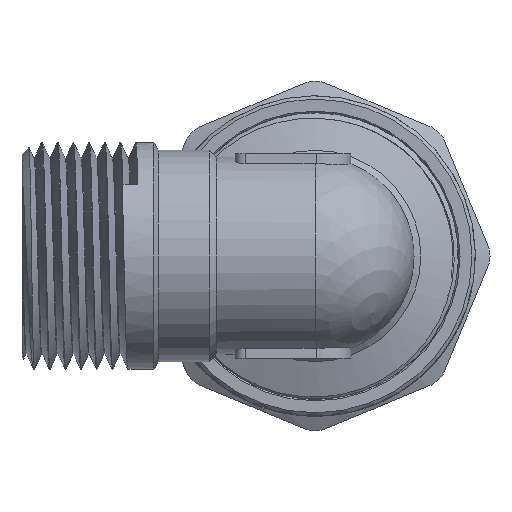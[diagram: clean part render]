
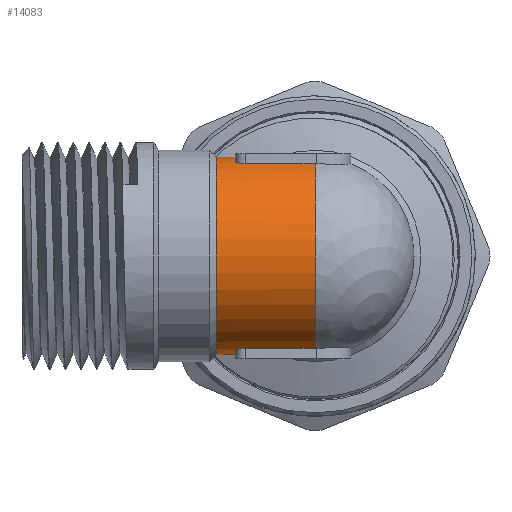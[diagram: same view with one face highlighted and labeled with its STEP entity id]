
A CAD part, left-side view. The second image highlights one B-rep face of the part: STEP entity #14083.
In plain terms, the highlighted cylindrical face has radius 14.5 mm (diameter 29 mm), a full revolution.
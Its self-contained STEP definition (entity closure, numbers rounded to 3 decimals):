
#55=ELLIPSE('',#14895,20.506,14.5);
#56=ELLIPSE('',#14897,20.506,14.5);
#792=CIRCLE('',#14859,14.5);
#793=CIRCLE('',#14861,14.5);
#815=CIRCLE('',#14908,14.5);
#816=CIRCLE('',#14909,14.5);
#1238=FACE_OUTER_BOUND('',#2032,.T.);
#2032=EDGE_LOOP('',(#10140,#10141,#10142,#10143,#10144,#10145,#10146,#10147,
#10148,#10149,#10150,#10151,#10152,#10153,#10154,#10155));
#2827=B_SPLINE_CURVE_WITH_KNOTS('',3,(#20115,#20116,#20117,#20118,#20119,
#20120,#20121,#20122),.UNSPECIFIED.,.F.,.F.,(4,2,2,4),(0.483,
0.539,0.595,0.598),.UNSPECIFIED.);
#2829=B_SPLINE_CURVE_WITH_KNOTS('',3,(#20140,#20141,#20142,#20143,#20144,
#20145,#20146,#20147),.UNSPECIFIED.,.F.,.F.,(4,2,2,4),(0.368,
0.371,0.427,0.483),.UNSPECIFIED.);
#2831=B_SPLINE_CURVE_WITH_KNOTS('',3,(#20176,#20177,#20178,#20179,#20180,
#20181,#20182,#20183,#20184,#20185),.UNSPECIFIED.,.F.,.F.,(4,2,2,2,4),(-0.232,
-0.172,-0.113,-0.057,0.),
 .UNSPECIFIED.);
#2832=B_SPLINE_CURVE_WITH_KNOTS('',3,(#20191,#20192,#20193,#20194,#20195,
#20196,#20197,#20198,#20199,#20200),.UNSPECIFIED.,.F.,.F.,(4,2,2,2,4),(0.,
0.057,0.113,0.172,0.232),
 .UNSPECIFIED.);
#2835=B_SPLINE_CURVE_WITH_KNOTS('',3,(#20260,#20261,#20262,#20263,#20264,
#20265,#20266,#20267,#20268,#20269),.UNSPECIFIED.,.F.,.F.,(4,2,2,2,4),(0.461,
0.517,0.574,0.633,0.692),
 .UNSPECIFIED.);
#2836=B_SPLINE_CURVE_WITH_KNOTS('',3,(#20275,#20276,#20277,#20278,#20279,
#20280,#20281,#20282,#20283,#20284),.UNSPECIFIED.,.F.,.F.,(4,2,2,2,4),(0.229,
0.288,0.347,0.404,0.461),
 .UNSPECIFIED.);
#3836=LINE('',#20164,#4841);
#3839=LINE('',#20170,#4844);
#3862=LINE('',#20302,#4867);
#3865=LINE('',#20310,#4870);
#4841=VECTOR('',#15885,10.);
#4844=VECTOR('',#15890,10.);
#4867=VECTOR('',#15959,10.);
#4870=VECTOR('',#15966,10.);
#5851=VERTEX_POINT('',#20113);
#5852=VERTEX_POINT('',#20114);
#5856=VERTEX_POINT('',#20138);
#5857=VERTEX_POINT('',#20139);
#5861=VERTEX_POINT('',#20163);
#5863=VERTEX_POINT('',#20169);
#5865=VERTEX_POINT('',#20175);
#5867=VERTEX_POINT('',#20190);
#5873=VERTEX_POINT('',#20217);
#5875=VERTEX_POINT('',#20223);
#5881=VERTEX_POINT('',#20259);
#5883=VERTEX_POINT('',#20274);
#5889=VERTEX_POINT('',#20301);
#5892=VERTEX_POINT('',#20309);
#5906=VERTEX_POINT('',#20392);
#7452=EDGE_CURVE('',#5851,#5852,#2827,.T.);
#7457=EDGE_CURVE('',#5856,#5857,#2829,.T.);
#7462=EDGE_CURVE('',#5861,#5851,#3836,.T.);
#7465=EDGE_CURVE('',#5857,#5863,#3839,.T.);
#7468=EDGE_CURVE('',#5865,#5861,#2831,.T.);
#7471=EDGE_CURVE('',#5863,#5867,#2832,.T.);
#7480=EDGE_CURVE('',#5873,#5865,#792,.T.);
#7483=EDGE_CURVE('',#5867,#5875,#793,.T.);
#7492=EDGE_CURVE('',#5881,#5873,#2835,.T.);
#7495=EDGE_CURVE('',#5875,#5883,#2836,.T.);
#7504=EDGE_CURVE('',#5889,#5881,#3862,.T.);
#7508=EDGE_CURVE('',#5883,#5892,#3865,.T.);
#7532=EDGE_CURVE('',#5856,#5906,#55,.T.);
#7534=EDGE_CURVE('',#5906,#5852,#56,.T.);
#7548=EDGE_CURVE('',#5906,#5906,#815,.T.);
#7549=EDGE_CURVE('',#5889,#5892,#816,.T.);
#10140=ORIENTED_EDGE('',*,*,#7452,.T.);
#10141=ORIENTED_EDGE('',*,*,#7534,.F.);
#10142=ORIENTED_EDGE('',*,*,#7548,.F.);
#10143=ORIENTED_EDGE('',*,*,#7532,.F.);
#10144=ORIENTED_EDGE('',*,*,#7457,.T.);
#10145=ORIENTED_EDGE('',*,*,#7465,.T.);
#10146=ORIENTED_EDGE('',*,*,#7471,.T.);
#10147=ORIENTED_EDGE('',*,*,#7483,.T.);
#10148=ORIENTED_EDGE('',*,*,#7495,.T.);
#10149=ORIENTED_EDGE('',*,*,#7508,.T.);
#10150=ORIENTED_EDGE('',*,*,#7549,.F.);
#10151=ORIENTED_EDGE('',*,*,#7504,.T.);
#10152=ORIENTED_EDGE('',*,*,#7492,.T.);
#10153=ORIENTED_EDGE('',*,*,#7480,.T.);
#10154=ORIENTED_EDGE('',*,*,#7468,.T.);
#10155=ORIENTED_EDGE('',*,*,#7462,.T.);
#13872=CYLINDRICAL_SURFACE('',#14907,14.5);
#14083=ADVANCED_FACE('',(#1238),#13872,.T.);
#14859=AXIS2_PLACEMENT_3D('',#20218,#15915,#15916);
#14861=AXIS2_PLACEMENT_3D('',#20224,#15921,#15922);
#14895=AXIS2_PLACEMENT_3D('',#20393,#16013,#16014);
#14897=AXIS2_PLACEMENT_3D('',#20395,#16017,#16018);
#14907=AXIS2_PLACEMENT_3D('',#21427,#16040,#16041);
#14908=AXIS2_PLACEMENT_3D('',#21428,#16042,#16043);
#14909=AXIS2_PLACEMENT_3D('',#21429,#16044,#16045);
#15885=DIRECTION('',(0.,-1.,0.));
#15890=DIRECTION('',(0.,1.,0.));
#15915=DIRECTION('center_axis',(0.,1.,0.));
#15916=DIRECTION('ref_axis',(-1.,0.,0.));
#15921=DIRECTION('center_axis',(0.,1.,0.));
#15922=DIRECTION('ref_axis',(-1.,0.,0.));
#15959=DIRECTION('',(0.,1.,0.));
#15966=DIRECTION('',(0.,-1.,0.));
#16013=DIRECTION('center_axis',(0.707,-0.707,0.));
#16014=DIRECTION('ref_axis',(-0.707,-0.707,0.));
#16017=DIRECTION('center_axis',(0.707,-0.707,0.));
#16018=DIRECTION('ref_axis',(-0.707,-0.707,0.));
#16040=DIRECTION('center_axis',(0.,1.,0.));
#16041=DIRECTION('ref_axis',(-1.,0.,0.));
#16042=DIRECTION('center_axis',(0.,1.,0.));
#16043=DIRECTION('ref_axis',(1.,0.,0.));
#16044=DIRECTION('center_axis',(0.,-1.,0.));
#16045=DIRECTION('ref_axis',(0.,0.,1.));
#20113=CARTESIAN_POINT('',(5.25,6.75,13.516));
#20114=CARTESIAN_POINT('',(5.689,5.689,13.337));
#20115=CARTESIAN_POINT('Ctrl Pts',(5.25,6.75,13.516));
#20116=CARTESIAN_POINT('Ctrl Pts',(5.25,6.563,13.516));
#20117=CARTESIAN_POINT('Ctrl Pts',(5.287,6.365,13.502));
#20118=CARTESIAN_POINT('Ctrl Pts',(5.435,6.002,13.443));
#20119=CARTESIAN_POINT('Ctrl Pts',(5.546,5.838,13.398));
#20120=CARTESIAN_POINT('Ctrl Pts',(5.677,5.702,13.343));
#20121=CARTESIAN_POINT('Ctrl Pts',(5.683,5.696,13.34));
#20122=CARTESIAN_POINT('Ctrl Pts',(5.689,5.689,13.337));
#20138=CARTESIAN_POINT('',(5.689,5.689,-13.337));
#20139=CARTESIAN_POINT('',(5.25,6.75,-13.516));
#20140=CARTESIAN_POINT('Ctrl Pts',(5.689,5.689,-13.337));
#20141=CARTESIAN_POINT('Ctrl Pts',(5.683,5.696,-13.34));
#20142=CARTESIAN_POINT('Ctrl Pts',(5.677,5.702,-13.343));
#20143=CARTESIAN_POINT('Ctrl Pts',(5.546,5.838,-13.398));
#20144=CARTESIAN_POINT('Ctrl Pts',(5.435,6.002,-13.443));
#20145=CARTESIAN_POINT('Ctrl Pts',(5.287,6.365,-13.502));
#20146=CARTESIAN_POINT('Ctrl Pts',(5.25,6.563,-13.516));
#20147=CARTESIAN_POINT('Ctrl Pts',(5.25,6.75,-13.516));
#20163=CARTESIAN_POINT('',(5.25,10.25,13.516));
#20164=CARTESIAN_POINT('',(5.25,7.25,13.516));
#20169=CARTESIAN_POINT('',(5.25,10.25,-13.516));
#20170=CARTESIAN_POINT('',(5.25,7.25,-13.516));
#20175=CARTESIAN_POINT('',(3.75,11.75,14.007));
#20176=CARTESIAN_POINT('Ctrl Pts',(3.75,11.75,14.007));
#20177=CARTESIAN_POINT('Ctrl Pts',(3.941,11.75,13.956));
#20178=CARTESIAN_POINT('Ctrl Pts',(4.144,11.711,13.897));
#20179=CARTESIAN_POINT('Ctrl Pts',(4.517,11.555,13.78));
#20180=CARTESIAN_POINT('Ctrl Pts',(4.686,11.437,13.723));
#20181=CARTESIAN_POINT('Ctrl Pts',(4.949,11.17,13.63));
#20182=CARTESIAN_POINT('Ctrl Pts',(5.062,11.004,13.588));
#20183=CARTESIAN_POINT('Ctrl Pts',(5.212,10.638,13.531));
#20184=CARTESIAN_POINT('Ctrl Pts',(5.25,10.438,13.516));
#20185=CARTESIAN_POINT('Ctrl Pts',(5.25,10.25,13.516));
#20190=CARTESIAN_POINT('',(3.75,11.75,-14.007));
#20191=CARTESIAN_POINT('Ctrl Pts',(5.25,10.25,-13.516));
#20192=CARTESIAN_POINT('Ctrl Pts',(5.25,10.438,-13.516));
#20193=CARTESIAN_POINT('Ctrl Pts',(5.212,10.638,-13.531));
#20194=CARTESIAN_POINT('Ctrl Pts',(5.062,11.004,-13.588));
#20195=CARTESIAN_POINT('Ctrl Pts',(4.949,11.17,-13.63));
#20196=CARTESIAN_POINT('Ctrl Pts',(4.686,11.437,-13.723));
#20197=CARTESIAN_POINT('Ctrl Pts',(4.517,11.555,-13.78));
#20198=CARTESIAN_POINT('Ctrl Pts',(4.144,11.711,-13.897));
#20199=CARTESIAN_POINT('Ctrl Pts',(3.941,11.75,-13.956));
#20200=CARTESIAN_POINT('Ctrl Pts',(3.75,11.75,-14.007));
#20217=CARTESIAN_POINT('',(-3.75,11.75,14.007));
#20218=CARTESIAN_POINT('Origin',(0.,11.75,0.));
#20223=CARTESIAN_POINT('',(-3.75,11.75,-14.007));
#20224=CARTESIAN_POINT('Origin',(0.,11.75,0.));
#20259=CARTESIAN_POINT('',(-5.25,10.25,13.516));
#20260=CARTESIAN_POINT('Ctrl Pts',(-5.25,10.25,13.516));
#20261=CARTESIAN_POINT('Ctrl Pts',(-5.25,10.438,13.516));
#20262=CARTESIAN_POINT('Ctrl Pts',(-5.212,10.638,13.531));
#20263=CARTESIAN_POINT('Ctrl Pts',(-5.062,11.004,13.588));
#20264=CARTESIAN_POINT('Ctrl Pts',(-4.949,11.17,13.63));
#20265=CARTESIAN_POINT('Ctrl Pts',(-4.686,11.437,13.723));
#20266=CARTESIAN_POINT('Ctrl Pts',(-4.517,11.555,13.78));
#20267=CARTESIAN_POINT('Ctrl Pts',(-4.144,11.711,13.897));
#20268=CARTESIAN_POINT('Ctrl Pts',(-3.941,11.75,13.956));
#20269=CARTESIAN_POINT('Ctrl Pts',(-3.75,11.75,14.007));
#20274=CARTESIAN_POINT('',(-5.25,10.25,-13.516));
#20275=CARTESIAN_POINT('Ctrl Pts',(-3.75,11.75,-14.007));
#20276=CARTESIAN_POINT('Ctrl Pts',(-3.941,11.75,-13.956));
#20277=CARTESIAN_POINT('Ctrl Pts',(-4.144,11.711,-13.897));
#20278=CARTESIAN_POINT('Ctrl Pts',(-4.517,11.555,-13.78));
#20279=CARTESIAN_POINT('Ctrl Pts',(-4.686,11.437,-13.723));
#20280=CARTESIAN_POINT('Ctrl Pts',(-4.949,11.17,-13.63));
#20281=CARTESIAN_POINT('Ctrl Pts',(-5.062,11.004,-13.588));
#20282=CARTESIAN_POINT('Ctrl Pts',(-5.212,10.638,-13.531));
#20283=CARTESIAN_POINT('Ctrl Pts',(-5.25,10.438,-13.516));
#20284=CARTESIAN_POINT('Ctrl Pts',(-5.25,10.25,-13.516));
#20301=CARTESIAN_POINT('',(-5.25,0.,13.516));
#20302=CARTESIAN_POINT('',(-5.25,7.25,13.516));
#20309=CARTESIAN_POINT('',(-5.25,0.,-13.516));
#20310=CARTESIAN_POINT('',(-5.25,7.25,-13.516));
#20392=CARTESIAN_POINT('',(14.5,14.5,0.));
#20393=CARTESIAN_POINT('Origin',(0.,0.,0.));
#20395=CARTESIAN_POINT('Origin',(0.,0.,0.));
#21427=CARTESIAN_POINT('Origin',(0.,7.25,0.));
#21428=CARTESIAN_POINT('Origin',(0.,14.5,0.));
#21429=CARTESIAN_POINT('Origin',(0.,0.,
0.));
